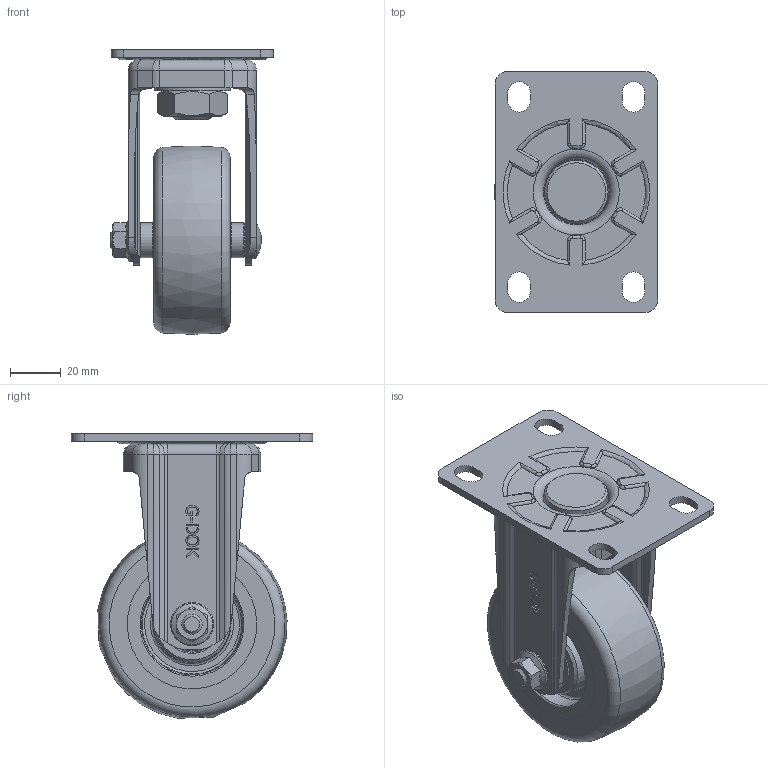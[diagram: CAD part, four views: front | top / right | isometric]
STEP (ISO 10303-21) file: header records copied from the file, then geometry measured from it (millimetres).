
FILE_DESCRIPTION(/* description */ (''),/* implementation_level */ '2;1');
FILE_NAME(/* name */ 'C:\Users\황치선\Desktop\PL-75-ARF-FRD.stp',/* time_stamp */ '2015-07-09T09:22:56+09:00',/* author */ ('황치선'),/* organization */ (''),/* preprocessor_version */ 'ST-DEVELOPER v15.6',/* originating_system */ 'Autodesk Inventor 2015',/* authorisation */ '');
FILE_SCHEMA (('AUTOMOTIVE_DESIGN { 1 0 10303 214 3 1 1 }'));
Length unit declared in the file: centimetre
Products named in the file (1): PL-75-ARF-FRD
Bounding box: 64.25 x 95 x 112.06 mm (x, y, z)
Volume: 174677.1 mm3; surface area: 60513.7 mm2
Topology: 1 solids, 7 shells, 752 faces, 1914 edges, 1197 vertices
Faces by surface type: plane 294, cylinder 225, bspline 111, torus 75, cone 46, sphere 1
Full cylindrical faces by diameter (mm): 8 x3, 8.2 x3, 13.8 x3, 14.6 x1, 16 x2, 17 x1, 18 x1, 22 x2, 25 x1, 30 x1
Entity records: 24783 total; most frequent: CARTESIAN_POINT 6631, ORIENTED_EDGE 3620, DIRECTION 3530, EDGE_CURVE 1806, AXIS2_PLACEMENT_3D 1325, VERTEX_POINT 1169, EDGE_LOOP 888, LINE 880
